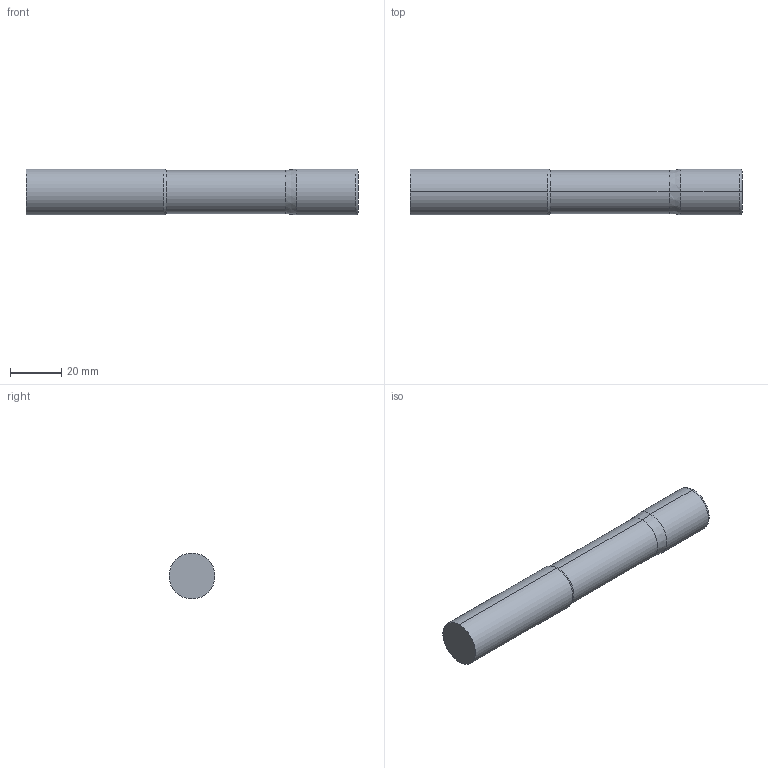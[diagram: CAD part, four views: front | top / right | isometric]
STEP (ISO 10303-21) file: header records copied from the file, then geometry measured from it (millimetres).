
FILE_DESCRIPTION (( 'STEP AP214' ), '1' );
FILE_NAME ('SSIRNM518M-1.STEP', '2025-05-29T19:17:17', ( '' ), ( '' ), 'SwSTEP 2.0', 'SolidWorks 2023', '' );
FILE_SCHEMA (( 'AUTOMOTIVE_DESIGN' ));
Length unit declared in the file: millimetre
Products named in the file (3): SSI5 Metric SHANK_SSIRNM518M-1; SSI5 Metric CUTTING_SSIRNM518M-1; SSIRNM518M-1
Assembly tree (2 placements, depth 2):
  SSIRNM518M-1
    SSI5 Metric CUTTING_SSIRNM518M-1
    SSI5 Metric SHANK_SSIRNM518M-1
Bounding box: 130 x 18 x 18 mm (x, y, z)
Volume: 31558.5 mm3; surface area: 8181.5 mm2
Topology: 2 solids, 2 shells, 16 faces, 28 edges, 16 vertices
Faces by surface type: cylinder 6, plane 4, cone 4, torus 2
Entity records: 474 total; most frequent: DIRECTION 88, CARTESIAN_POINT 65, ORIENTED_EDGE 56, AXIS2_PLACEMENT_3D 39, EDGE_CURVE 28, CIRCLE 18, ADVANCED_FACE 16, FACE_OUTER_BOUND 16
